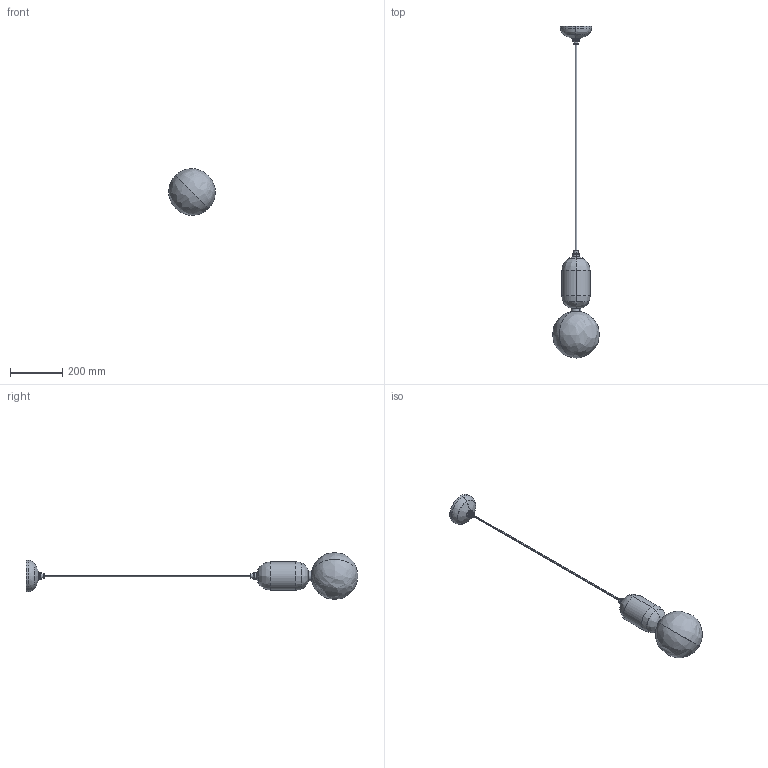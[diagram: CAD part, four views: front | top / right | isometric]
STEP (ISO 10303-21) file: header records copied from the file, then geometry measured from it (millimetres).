
FILE_DESCRIPTION (( 'STEP AP214' ), '1' );
FILE_NAME ('ABALLS T PEQUEÑA.STEP', '2014-10-14T10:52:16', ( 'Josep Sancho' ), ( '' ), 'SwSTEP 2.0', 'SolidWorks 2010', '' );
FILE_SCHEMA (( 'AUTOMOTIVE_DESIGN' ));
Length unit declared in the file: millimetre
Products named in the file (12): CABLE MANGUERA 1M RECTO; 022605100000 - ARANDELA DIAM.17X2MM POLIETILENO NEUTRO; CONJUNTO FLORON T; 013100200105 - PASACABLE POLIETILENO TRANSP. DIAM.11,5X14MM; 060700500000 - REPULS DIAM.120X60MM; 054100400119 - TAPON EMBELLECEDOR DIAM.17X10MM M12; 067600500103 - DIFUSOR CRISTAL OPAL BLANCO MATE DIAM.180 TALADRO 30MM; 021900100101 - ESPARRAGO DIN913 M3X4MM PAVONADO NEGRO; 061700100119 - CILINDRO CUELLO DIAM.36X15MM; 054100300119 - TAPÓN EMBELLECEDOR DIAM.17X16,5 M12; 052700400000 - CERÁM DIAM.108X210MM; ABALLS T PEQUEÑA
Assembly tree (11 placements, depth 3):
  ABALLS T PEQUEÑA
    CONJUNTO FLORON T
      054100400119 - TAPON EMBELLECEDOR DIAM.17X10MM M12
      060700500000 - REPULS DIAM.120X60MM
      013100200105 - PASACABLE POLIETILENO TRANSP. DIAM.11,5X14MM
    061700100119 - CILINDRO CUELLO DIAM.36X15MM
    CABLE MANGUERA 1M RECTO
    021900100101 - ESPARRAGO DIN913 M3X4MM PAVONADO NEGRO
    067600500103 - DIFUSOR CRISTAL OPAL BLANCO MATE DIAM.180 TALADRO 30MM
    052700400000 - CERÁM DIAM.108X210MM
    022605100000 - ARANDELA DIAM.17X2MM POLIETILENO NEUTRO
    054100300119 - TAPÓN EMBELLECEDOR DIAM.17X16,5 M12
Bounding box: 179.9 x 1274.21 x 179.9 mm (x, y, z)
Volume: 544800.1 mm3; surface area: 414735 mm2
Topology: 10 solids, 10 shells, 179 faces, 396 edges, 238 vertices
Faces by surface type: cylinder 86, bspline 50, plane 37, cone 6
Entity records: 8235 total; most frequent: CARTESIAN_POINT 1856, DIRECTION 902, ORIENTED_EDGE 776, AXIS2_PLACEMENT_3D 392, EDGE_CURVE 388, CIRCLE 248, VERTEX_POINT 238, EDGE_LOOP 220
